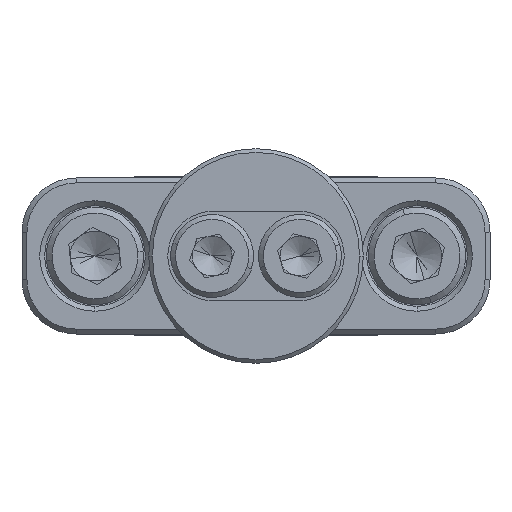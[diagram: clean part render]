
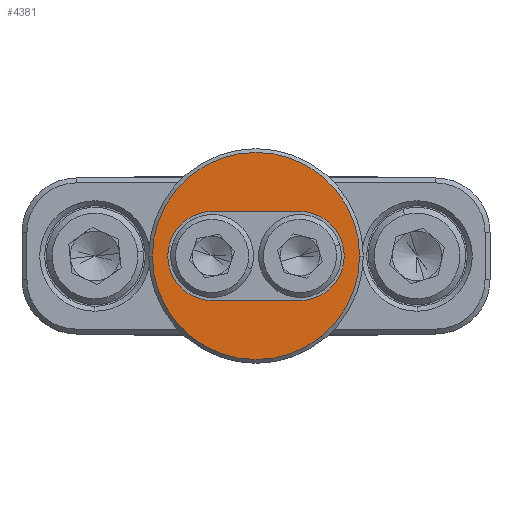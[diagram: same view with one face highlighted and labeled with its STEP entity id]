
A CAD part, front view. The second image highlights one B-rep face of the part: STEP entity #4381.
In plain terms, the highlighted planar face has unit normal (0, -1, 0).
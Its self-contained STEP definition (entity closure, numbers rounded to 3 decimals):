
#15 = EDGE_CURVE ( 'NONE', #4086, #5325, #4865, .T. ) ;
#291 = DIRECTION ( 'NONE',  ( 0., -1., 0. ) ) ;
#389 = EDGE_LOOP ( 'NONE', ( #5205, #1745, #6105, #4449, #4854 ) ) ;
#399 = VERTEX_POINT ( 'NONE', #896 ) ;
#600 = CIRCLE ( 'NONE', #4204, 10.617 ) ;
#769 = LINE ( 'NONE', #4713, #1955 ) ;
#896 = CARTESIAN_POINT ( 'NONE',  ( 0., 0., 10.617 ) ) ;
#1003 = CARTESIAN_POINT ( 'NONE',  ( -4.572, 0., -4.47 ) ) ;
#1134 = CIRCLE ( 'NONE', #3488, 10.617 ) ;
#1175 = CARTESIAN_POINT ( 'NONE',  ( 4.572, 0., 4.47 ) ) ;
#1212 = CARTESIAN_POINT ( 'NONE',  ( -4.572, 0., 4.47 ) ) ;
#1288 = PLANE ( 'NONE',  #3846 ) ;
#1358 = EDGE_CURVE ( 'NONE', #2021, #399, #1134, .T. ) ;
#1388 = VERTEX_POINT ( 'NONE', #1175 ) ;
#1482 = CARTESIAN_POINT ( 'NONE',  ( 0., 0., -4.47 ) ) ;
#1584 = CARTESIAN_POINT ( 'NONE',  ( 4.572, 0., -4.47 ) ) ;
#1636 = EDGE_CURVE ( 'NONE', #399, #2021, #600, .T. ) ;
#1714 = DIRECTION ( 'NONE',  ( 0., -1., 0. ) ) ;
#1745 = ORIENTED_EDGE ( 'NONE', *, *, #5818, .F. ) ;
#1749 = EDGE_CURVE ( 'NONE', #4763, #4086, #3114, .T. ) ;
#1955 = VECTOR ( 'NONE', #4179, 1000. ) ;
#1971 = DIRECTION ( 'NONE',  ( 0., 0., 1. ) ) ;
#2021 = VERTEX_POINT ( 'NONE', #3919 ) ;
#2163 = AXIS2_PLACEMENT_3D ( 'NONE', #6049, #3623, #5335 ) ;
#2188 = DIRECTION ( 'NONE',  ( 0., 0., 1. ) ) ;
#2189 = AXIS2_PLACEMENT_3D ( 'NONE', #1482, #3837, #5310 ) ;
#2281 = FACE_OUTER_BOUND ( 'NONE', #2753, .T. ) ;
#2308 = CARTESIAN_POINT ( 'NONE',  ( -4.572, 0., -4.47 ) ) ;
#2328 = EDGE_CURVE ( 'NONE', #3563, #1388, #769, .T. ) ;
#2396 = ORIENTED_EDGE ( 'NONE', *, *, #1636, .T. ) ;
#2441 = AXIS2_PLACEMENT_3D ( 'NONE', #4785, #3858, #1971 ) ;
#2534 = CARTESIAN_POINT ( 'NONE',  ( 0., 0., -9.042 ) ) ;
#2753 = EDGE_LOOP ( 'NONE', ( #2396, #2976 ) ) ;
#2877 = FACE_BOUND ( 'NONE', #389, .T. ) ;
#2976 = ORIENTED_EDGE ( 'NONE', *, *, #1358, .T. ) ;
#3106 = CARTESIAN_POINT ( 'NONE',  ( 0., 0., 0. ) ) ;
#3114 = LINE ( 'NONE', #2308, #5504 ) ;
#3488 = AXIS2_PLACEMENT_3D ( 'NONE', #5452, #1714, #5048 ) ;
#3563 = VERTEX_POINT ( 'NONE', #1584 ) ;
#3623 = DIRECTION ( 'NONE',  ( 0., -1., 0. ) ) ;
#3837 = DIRECTION ( 'NONE',  ( 0., -1., 0. ) ) ;
#3846 = AXIS2_PLACEMENT_3D ( 'NONE', #5628, #4148, #6079 ) ;
#3858 = DIRECTION ( 'NONE',  ( 0., -1., 0. ) ) ;
#3919 = CARTESIAN_POINT ( 'NONE',  ( 0., 0., -10.617 ) ) ;
#4086 = VERTEX_POINT ( 'NONE', #1003 ) ;
#4148 = DIRECTION ( 'NONE',  ( 0., 1., 0. ) ) ;
#4179 = DIRECTION ( 'NONE',  ( 0., 0., 1. ) ) ;
#4204 = AXIS2_PLACEMENT_3D ( 'NONE', #3106, #291, #2188 ) ;
#4381 = ADVANCED_FACE ( 'NONE', ( #2877, #2281 ), #1288, .F. ) ;
#4449 = ORIENTED_EDGE ( 'NONE', *, *, #1749, .F. ) ;
#4713 = CARTESIAN_POINT ( 'NONE',  ( 4.572, 0., -4.47 ) ) ;
#4763 = VERTEX_POINT ( 'NONE', #1212 ) ;
#4785 = CARTESIAN_POINT ( 'NONE',  ( 0., 0., -4.47 ) ) ;
#4854 = ORIENTED_EDGE ( 'NONE', *, *, #5655, .F. ) ;
#4865 = CIRCLE ( 'NONE', #2189, 4.572 ) ;
#5037 = CIRCLE ( 'NONE', #2441, 4.572 ) ;
#5048 = DIRECTION ( 'NONE',  ( 0., 0., 1. ) ) ;
#5205 = ORIENTED_EDGE ( 'NONE', *, *, #2328, .F. ) ;
#5245 = CIRCLE ( 'NONE', #2163, 4.572 ) ;
#5310 = DIRECTION ( 'NONE',  ( 0., 0., 1. ) ) ;
#5325 = VERTEX_POINT ( 'NONE', #2534 ) ;
#5335 = DIRECTION ( 'NONE',  ( 0., 0., -1. ) ) ;
#5452 = CARTESIAN_POINT ( 'NONE',  ( 0., 0., 0. ) ) ;
#5504 = VECTOR ( 'NONE', #5642, 1000. ) ;
#5628 = CARTESIAN_POINT ( 'NONE',  ( 0., 0., 0. ) ) ;
#5642 = DIRECTION ( 'NONE',  ( 0., 0., -1. ) ) ;
#5655 = EDGE_CURVE ( 'NONE', #1388, #4763, #5245, .T. ) ;
#5818 = EDGE_CURVE ( 'NONE', #5325, #3563, #5037, .T. ) ;
#6049 = CARTESIAN_POINT ( 'NONE',  ( 0., 0., 4.47 ) ) ;
#6079 = DIRECTION ( 'NONE',  ( 0., 0., 1. ) ) ;
#6105 = ORIENTED_EDGE ( 'NONE', *, *, #15, .F. ) ;
